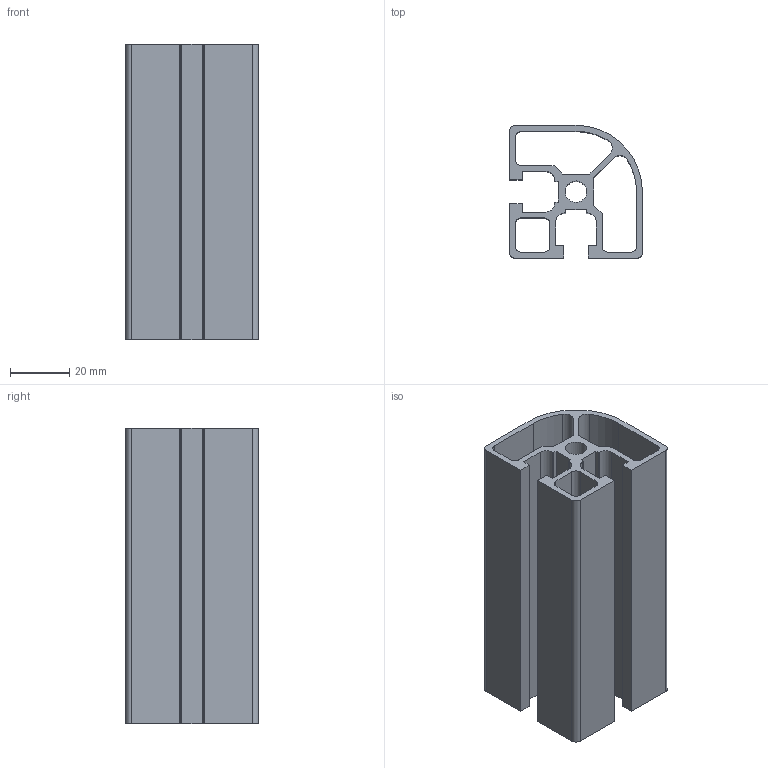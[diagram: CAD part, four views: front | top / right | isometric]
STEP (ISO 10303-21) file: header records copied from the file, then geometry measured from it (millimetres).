
FILE_DESCRIPTION (( 'STEP AP214' ), '1' );
FILE_NAME ('SA02010.step', '2024-12-03T16:28:53', ( '' ), ( '' ), 'SwSTEP 2.0', 'SolidWorks 2023', '' );
FILE_SCHEMA (( 'AUTOMOTIVE_DESIGN' ));
Length unit declared in the file: millimetre
Products named in the file (1): SA02010
Bounding box: 45 x 45 x 100 mm (x, y, z)
Volume: 58108.3 mm3; surface area: 49473.6 mm2
Topology: 1 solids, 1 shells, 67 faces, 195 edges, 130 vertices
Faces by surface type: plane 46, cylinder 21
Full cylindrical faces by diameter (mm): 7.3 x1
Entity records: 2245 total; most frequent: CARTESIAN_POINT 392, ORIENTED_EDGE 388, DIRECTION 372, EDGE_CURVE 194, VECTOR 152, LINE 152, VERTEX_POINT 130, AXIS2_PLACEMENT_3D 110
